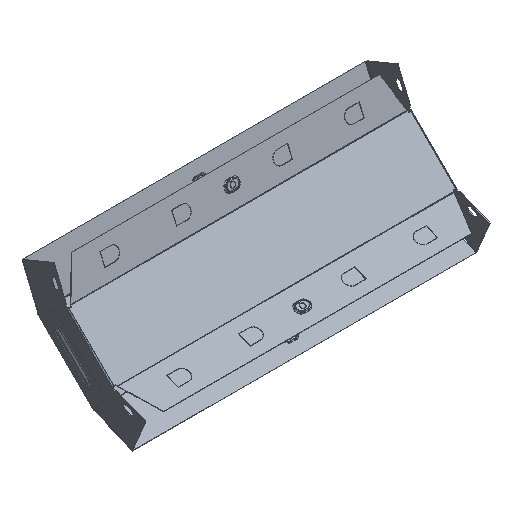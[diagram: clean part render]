
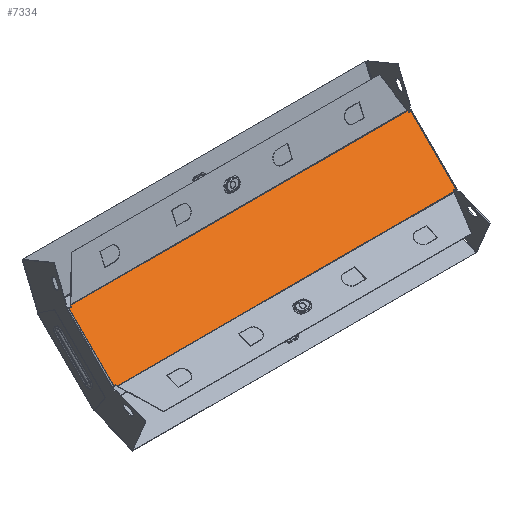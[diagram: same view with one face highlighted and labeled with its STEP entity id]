
A CAD part, isometric view. The second image highlights one B-rep face of the part: STEP entity #7334.
In plain terms, the highlighted planar face has unit normal (0, -0.707, 0.707).
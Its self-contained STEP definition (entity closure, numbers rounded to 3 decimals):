
#307 = ORIENTED_EDGE ( 'NONE', *, *, #1471, .T. ) ;
#314 = LINE ( 'NONE', #2946, #8574 ) ;
#347 = ORIENTED_EDGE ( 'NONE', *, *, #3713, .T. ) ;
#395 = VERTEX_POINT ( 'NONE', #4330 ) ;
#449 = CARTESIAN_POINT ( 'NONE',  ( 248.2, 70., -2.118 ) ) ;
#480 = CARTESIAN_POINT ( 'NONE',  ( 244.345, 2.258, -69.859 ) ) ;
#544 = ORIENTED_EDGE ( 'NONE', *, *, #7544, .T. ) ;
#759 = VERTEX_POINT ( 'NONE', #480 ) ;
#930 = EDGE_CURVE ( 'NONE', #759, #7467, #3955, .T. ) ;
#1027 = CARTESIAN_POINT ( 'NONE',  ( -248.2, 69.245, -2.873 ) ) ;
#1336 = LINE ( 'NONE', #7330, #9601 ) ;
#1471 = EDGE_CURVE ( 'NONE', #395, #10108, #11219, .T. ) ;
#1534 = ORIENTED_EDGE ( 'NONE', *, *, #3026, .T. ) ;
#1643 = VECTOR ( 'NONE', #11924, 1000. ) ;
#1716 = ORIENTED_EDGE ( 'NONE', *, *, #3971, .F. ) ;
#1972 = DIRECTION ( 'NONE',  ( 0., -0.707, -0.707 ) ) ;
#1995 = CARTESIAN_POINT ( 'NONE',  ( 248.2, 2.258, -69.859 ) ) ;
#2010 = EDGE_CURVE ( 'NONE', #11297, #6338, #5034, .T. ) ;
#2446 = LINE ( 'NONE', #7591, #5637 ) ;
#2564 = VERTEX_POINT ( 'NONE', #11818 ) ;
#2657 = DIRECTION ( 'NONE',  ( -1., 0., 0. ) ) ;
#2680 = CARTESIAN_POINT ( 'NONE',  ( -248.2, 70., -2.118 ) ) ;
#2747 = EDGE_CURVE ( 'NONE', #759, #2564, #3603, .T. ) ;
#2757 = DIRECTION ( 'NONE',  ( -0.924, 0.271, 0.271 ) ) ;
#2772 = VERTEX_POINT ( 'NONE', #7973 ) ;
#2850 = CARTESIAN_POINT ( 'NONE',  ( -245.217, 68.371, -3.747 ) ) ;
#2946 = CARTESIAN_POINT ( 'NONE',  ( 250.299, 2.258, -69.859 ) ) ;
#2996 = ORIENTED_EDGE ( 'NONE', *, *, #7686, .T. ) ;
#3026 = EDGE_CURVE ( 'NONE', #10828, #2772, #4168, .T. ) ;
#3115 = ORIENTED_EDGE ( 'NONE', *, *, #2010, .T. ) ;
#3116 = ORIENTED_EDGE ( 'NONE', *, *, #4027, .T. ) ;
#3150 = LINE ( 'NONE', #10480, #7196 ) ;
#3178 = CARTESIAN_POINT ( 'NONE',  ( -250.299, 2.258, -69.859 ) ) ;
#3439 = EDGE_CURVE ( 'NONE', #4392, #395, #11573, .T. ) ;
#3539 = CARTESIAN_POINT ( 'NONE',  ( 223.5, -33.327, -105.445 ) ) ;
#3603 = LINE ( 'NONE', #1995, #9559 ) ;
#3663 = EDGE_LOOP ( 'NONE', ( #11777, #2996, #1716, #3115, #347, #1534, #3116, #544, #9621, #307, #9032, #9895 ) ) ;
#3667 = VECTOR ( 'NONE', #8118, 1000. ) ;
#3713 = EDGE_CURVE ( 'NONE', #6338, #10828, #3150, .T. ) ;
#3849 = LINE ( 'NONE', #2850, #5305 ) ;
#3910 = DIRECTION ( 'NONE',  ( -0.383, -0.653, -0.653 ) ) ;
#3955 = LINE ( 'NONE', #3539, #3667 ) ;
#3971 = EDGE_CURVE ( 'NONE', #11297, #10368, #10250, .T. ) ;
#3998 = VECTOR ( 'NONE', #1972, 1000. ) ;
#4027 = EDGE_CURVE ( 'NONE', #2772, #5696, #3849, .T. ) ;
#4156 = VECTOR ( 'NONE', #4631, 1000. ) ;
#4168 = LINE ( 'NONE', #10043, #6773 ) ;
#4330 = CARTESIAN_POINT ( 'NONE',  ( -248.2, 2.873, -69.245 ) ) ;
#4392 = VERTEX_POINT ( 'NONE', #1027 ) ;
#4631 = DIRECTION ( 'NONE',  ( -0.924, -0.271, -0.271 ) ) ;
#5034 = LINE ( 'NONE', #7260, #4156 ) ;
#5242 = AXIS2_PLACEMENT_3D ( 'NONE', #449, #9849, #8832 ) ;
#5305 = VECTOR ( 'NONE', #3910, 1000. ) ;
#5637 = VECTOR ( 'NONE', #6948, 1000. ) ;
#5696 = VERTEX_POINT ( 'NONE', #12015 ) ;
#5797 = DIRECTION ( 'NONE',  ( -1., 0., 0. ) ) ;
#5827 = FACE_OUTER_BOUND ( 'NONE', #3663, .T. ) ;
#6338 = VERTEX_POINT ( 'NONE', #8505 ) ;
#6574 = CARTESIAN_POINT ( 'NONE',  ( 248.2, 70., -2.118 ) ) ;
#6602 = DIRECTION ( 'NONE',  ( 0.924, -0.271, -0.271 ) ) ;
#6773 = VECTOR ( 'NONE', #2657, 1000. ) ;
#6948 = DIRECTION ( 'NONE',  ( 0.383, -0.653, -0.653 ) ) ;
#7196 = VECTOR ( 'NONE', #9578, 1000. ) ;
#7211 = CARTESIAN_POINT ( 'NONE',  ( 248.2, 2.873, -69.245 ) ) ;
#7260 = CARTESIAN_POINT ( 'NONE',  ( 250.299, 69.859, -2.258 ) ) ;
#7330 = CARTESIAN_POINT ( 'NONE',  ( -250.299, 69.859, -2.258 ) ) ;
#7334 = ADVANCED_FACE ( 'NONE', ( #5827 ), #9693, .F. ) ;
#7467 = VERTEX_POINT ( 'NONE', #9065 ) ;
#7544 = EDGE_CURVE ( 'NONE', #5696, #4392, #1336, .T. ) ;
#7591 = CARTESIAN_POINT ( 'NONE',  ( -245.217, 3.747, -68.371 ) ) ;
#7686 = EDGE_CURVE ( 'NONE', #7467, #10368, #314, .T. ) ;
#7906 = CARTESIAN_POINT ( 'NONE',  ( 248.2, 69.245, -2.873 ) ) ;
#7973 = CARTESIAN_POINT ( 'NONE',  ( -244.345, 69.859, -2.258 ) ) ;
#8118 = DIRECTION ( 'NONE',  ( 0.383, 0.653, 0.653 ) ) ;
#8505 = CARTESIAN_POINT ( 'NONE',  ( 245.217, 68.371, -3.747 ) ) ;
#8574 = VECTOR ( 'NONE', #6602, 1000. ) ;
#8832 = DIRECTION ( 'NONE',  ( 0., 0.707, 0.707 ) ) ;
#9032 = ORIENTED_EDGE ( 'NONE', *, *, #9409, .T. ) ;
#9065 = CARTESIAN_POINT ( 'NONE',  ( 245.217, 3.747, -68.371 ) ) ;
#9172 = DIRECTION ( 'NONE',  ( 0., -0.707, -0.707 ) ) ;
#9409 = EDGE_CURVE ( 'NONE', #10108, #2564, #2446, .T. ) ;
#9559 = VECTOR ( 'NONE', #5797, 1000. ) ;
#9578 = DIRECTION ( 'NONE',  ( -0.383, 0.653, 0.653 ) ) ;
#9601 = VECTOR ( 'NONE', #2757, 1000. ) ;
#9621 = ORIENTED_EDGE ( 'NONE', *, *, #3439, .T. ) ;
#9693 = PLANE ( 'NONE',  #5242 ) ;
#9848 = CARTESIAN_POINT ( 'NONE',  ( 244.345, 69.859, -2.258 ) ) ;
#9849 = DIRECTION ( 'NONE',  ( 0., 0.707, -0.707 ) ) ;
#9895 = ORIENTED_EDGE ( 'NONE', *, *, #2747, .F. ) ;
#9968 = VECTOR ( 'NONE', #9172, 1000. ) ;
#10022 = CARTESIAN_POINT ( 'NONE',  ( -245.217, 3.747, -68.371 ) ) ;
#10043 = CARTESIAN_POINT ( 'NONE',  ( 248.2, 69.859, -2.258 ) ) ;
#10108 = VERTEX_POINT ( 'NONE', #10022 ) ;
#10250 = LINE ( 'NONE', #6574, #3998 ) ;
#10368 = VERTEX_POINT ( 'NONE', #7211 ) ;
#10480 = CARTESIAN_POINT ( 'NONE',  ( 223.5, 105.445, 33.327 ) ) ;
#10828 = VERTEX_POINT ( 'NONE', #9848 ) ;
#11219 = LINE ( 'NONE', #3178, #1643 ) ;
#11297 = VERTEX_POINT ( 'NONE', #7906 ) ;
#11573 = LINE ( 'NONE', #2680, #9968 ) ;
#11777 = ORIENTED_EDGE ( 'NONE', *, *, #930, .T. ) ;
#11818 = CARTESIAN_POINT ( 'NONE',  ( -244.345, 2.258, -69.859 ) ) ;
#11924 = DIRECTION ( 'NONE',  ( 0.924, 0.271, 0.271 ) ) ;
#12015 = CARTESIAN_POINT ( 'NONE',  ( -245.217, 68.371, -3.747 ) ) ;
